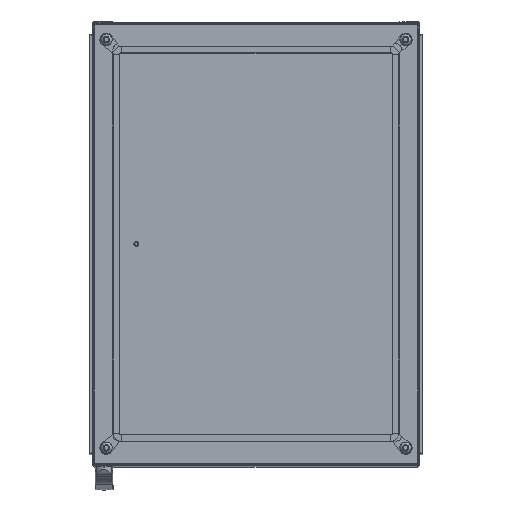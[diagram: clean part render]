
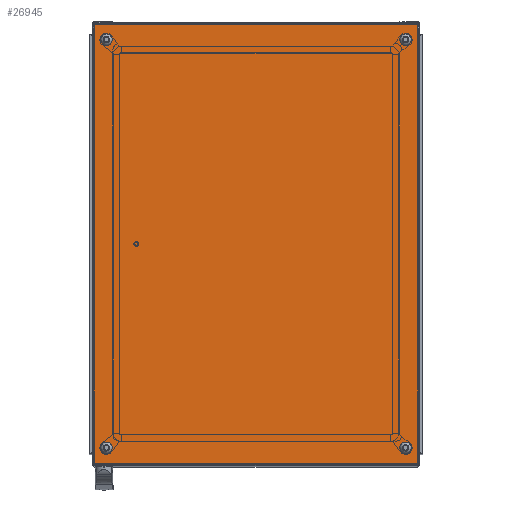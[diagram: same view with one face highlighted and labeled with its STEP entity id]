
A CAD part, top view. The second image highlights one B-rep face of the part: STEP entity #26945.
In plain terms, the highlighted planar face has unit normal (0, 0, 1).
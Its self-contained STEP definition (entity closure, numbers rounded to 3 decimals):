
#1343=CIRCLE('',#28944,6.);
#1344=CIRCLE('',#28945,6.);
#1345=CIRCLE('',#28946,6.);
#1346=CIRCLE('',#28947,6.);
#5099=ORIENTED_EDGE('',*,*,#11493,.F.);
#5100=ORIENTED_EDGE('',*,*,#11494,.F.);
#5101=ORIENTED_EDGE('',*,*,#11495,.F.);
#5102=ORIENTED_EDGE('',*,*,#11496,.F.);
#5103=ORIENTED_EDGE('',*,*,#11482,.T.);
#5104=ORIENTED_EDGE('',*,*,#11490,.T.);
#5105=ORIENTED_EDGE('',*,*,#11453,.F.);
#5106=ORIENTED_EDGE('',*,*,#11497,.F.);
#11453=EDGE_CURVE('',#14885,#14886,#17573,.T.);
#11482=EDGE_CURVE('',#14907,#14906,#17579,.T.);
#11490=EDGE_CURVE('',#14906,#14886,#17584,.T.);
#11493=EDGE_CURVE('',#14908,#14908,#1343,.T.);
#11494=EDGE_CURVE('',#14909,#14909,#1344,.T.);
#11495=EDGE_CURVE('',#14910,#14910,#1345,.T.);
#11496=EDGE_CURVE('',#14911,#14911,#1346,.T.);
#11497=EDGE_CURVE('',#14907,#14885,#17587,.T.);
#14885=VERTEX_POINT('',#42081);
#14886=VERTEX_POINT('',#42083);
#14906=VERTEX_POINT('',#42157);
#14907=VERTEX_POINT('',#42159);
#14908=VERTEX_POINT('',#42176);
#14909=VERTEX_POINT('',#42178);
#14910=VERTEX_POINT('',#42180);
#14911=VERTEX_POINT('',#42182);
#17573=LINE('',#42082,#19918);
#17579=LINE('',#42158,#19924);
#17584=LINE('',#42170,#19929);
#17587=LINE('',#42183,#19932);
#19918=VECTOR('',#33728,1000.);
#19924=VECTOR('',#33782,1000.);
#19929=VECTOR('',#33799,1000.);
#19932=VECTOR('',#33814,1000.);
#21961=EDGE_LOOP('',(#5099));
#21962=EDGE_LOOP('',(#5100));
#21963=EDGE_LOOP('',(#5101));
#21964=EDGE_LOOP('',(#5102));
#21965=EDGE_LOOP('',(#5103,#5104,#5105,#5106));
#24168=FACE_BOUND('',#21961,.T.);
#24169=FACE_BOUND('',#21962,.T.);
#24170=FACE_BOUND('',#21963,.T.);
#24171=FACE_BOUND('',#21964,.T.);
#24172=FACE_BOUND('',#21965,.T.);
#26032=PLANE('',#28943);
#26945=ADVANCED_FACE('',(#24168,#24169,#24170,#24171,#24172),#26032,.T.);
#28943=AXIS2_PLACEMENT_3D('',#42174,#33804,#33805);
#28944=AXIS2_PLACEMENT_3D('',#42175,#33806,#33807);
#28945=AXIS2_PLACEMENT_3D('',#42177,#33808,#33809);
#28946=AXIS2_PLACEMENT_3D('',#42179,#33810,#33811);
#28947=AXIS2_PLACEMENT_3D('',#42181,#33812,#33813);
#33728=DIRECTION('',(-1.,0.,0.));
#33782=DIRECTION('',(-1.,0.,0.));
#33799=DIRECTION('',(0.,-1.,0.));
#33804=DIRECTION('',(0.,0.,1.));
#33805=DIRECTION('',(1.,0.,0.));
#33806=DIRECTION('',(0.,0.,1.));
#33807=DIRECTION('',(1.,0.,0.));
#33808=DIRECTION('',(0.,0.,1.));
#33809=DIRECTION('',(1.,0.,0.));
#33810=DIRECTION('',(0.,0.,1.));
#33811=DIRECTION('',(1.,0.,0.));
#33812=DIRECTION('',(0.,0.,1.));
#33813=DIRECTION('',(1.,0.,0.));
#33814=DIRECTION('',(0.,-1.,0.));
#42081=CARTESIAN_POINT('',(296.5,-402.5,20.));
#42082=CARTESIAN_POINT('',(300.,-402.5,20.));
#42083=CARTESIAN_POINT('',(-296.5,-402.5,20.));
#42157=CARTESIAN_POINT('',(-296.5,402.5,20.));
#42158=CARTESIAN_POINT('',(300.,402.5,20.));
#42159=CARTESIAN_POINT('',(296.5,402.5,20.));
#42170=CARTESIAN_POINT('',(-296.5,405.5,20.));
#42174=CARTESIAN_POINT('',(-296.5,-402.5,20.));
#42175=CARTESIAN_POINT('',(274.5,-374.5,20.));
#42176=CARTESIAN_POINT('',(280.5,-374.5,20.));
#42177=CARTESIAN_POINT('',(-274.5,374.5,20.));
#42178=CARTESIAN_POINT('',(-268.5,374.5,20.));
#42179=CARTESIAN_POINT('',(274.5,374.5,20.));
#42180=CARTESIAN_POINT('',(280.5,374.5,20.));
#42181=CARTESIAN_POINT('',(-274.5,-374.5,20.));
#42182=CARTESIAN_POINT('',(-268.5,-374.5,20.));
#42183=CARTESIAN_POINT('',(296.5,405.5,20.));
